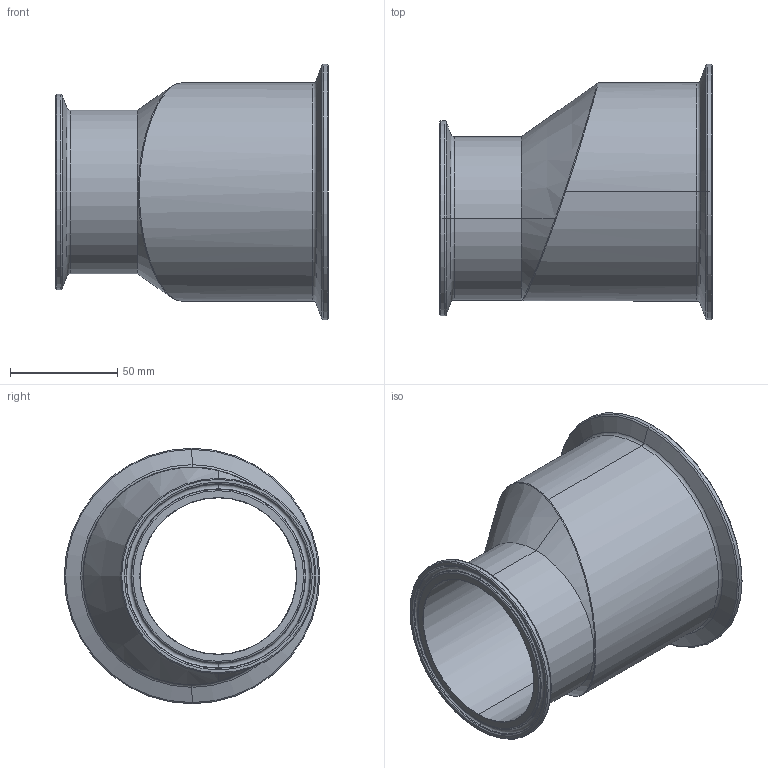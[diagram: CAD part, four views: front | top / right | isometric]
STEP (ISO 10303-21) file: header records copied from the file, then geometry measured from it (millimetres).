
FILE_DESCRIPTION (( 'STEP AP214' ), '1' );
FILE_NAME ('TEG32SCC6L4.0x3.0-...STEP', '2016-06-01T13:13:32', ( 'eran' ), ( '' ), 'SwSTEP 2.0', 'SolidWorks 2016', '' );
FILE_SCHEMA (( 'AUTOMOTIVE_DESIGN' ));
Length unit declared in the file: millimetre
Products named in the file (1): TEG32SCC6L4.0x3.0-..
Bounding box: 127 x 119 x 119 mm (x, y, z)
Volume: 253530.8 mm3; surface area: 79801.3 mm2
Topology: 1 solids, 1 shells, 68 faces, 145 edges, 79 vertices
Faces by surface type: torus 25, cone 23, cylinder 12, bspline 4, plane 4
Entity records: 2702 total; most frequent: CARTESIAN_POINT 1198, DIRECTION 348, ORIENTED_EDGE 286, AXIS2_PLACEMENT_3D 157, EDGE_CURVE 143, CIRCLE 92, VERTEX_POINT 79, EDGE_LOOP 72
